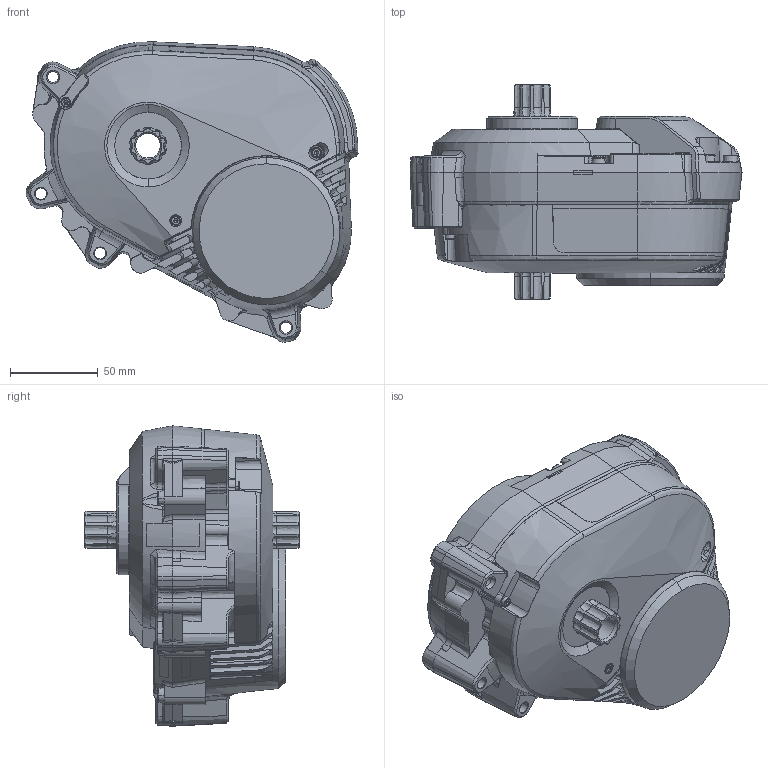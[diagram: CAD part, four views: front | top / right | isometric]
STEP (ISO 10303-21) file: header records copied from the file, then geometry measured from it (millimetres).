
FILE_DESCRIPTION (( 'STEP AP214' ), '1' );
FILE_NAME ('PERS_volume.STEP', '2025-01-31T09:24:36', ( '' ), ( '' ), 'SwSTEP 2.0', 'SolidWorks 2024', '' );
FILE_SCHEMA (( 'AUTOMOTIVE_DESIGN' ));
Length unit declared in the file: millimetre
Products named in the file (1): PERS_volume
Bounding box: 188.9 x 122 x 170.91 mm (x, y, z)
Volume: 1497845.8 mm3; surface area: 165127.5 mm2
Topology: 5 solids, 14 shells, 2111 faces, 5628 edges, 3549 vertices
Faces by surface type: cylinder 585, plane 563, bspline 523, cone 264, torus 169, sphere 7
Full cylindrical faces by diameter (mm): 3.2 x2, 5.3 x7, 5.4 x1, 6.3 x2, 6.6 x2, 14 x1, 51.469 x1
Entity records: 132721 total; most frequent: CARTESIAN_POINT 63240, ORIENTED_EDGE 11096, DIRECTION 7732, EDGE_CURVE 5548, VERTEX_POINT 3536, AXIS2_PLACEMENT_3D 3115, B_SPLINE_CURVE_WITH_KNOTS 2298, EDGE_LOOP 2218
